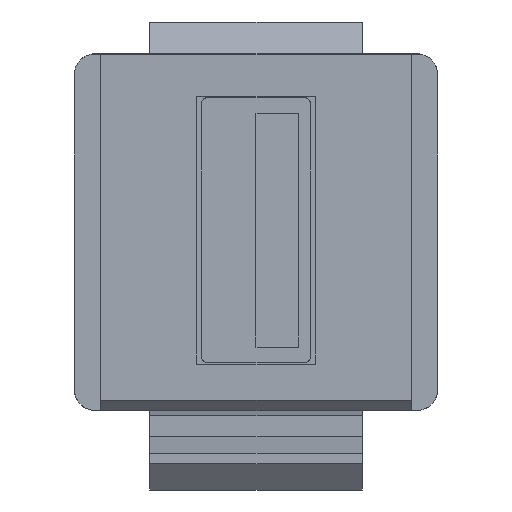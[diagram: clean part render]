
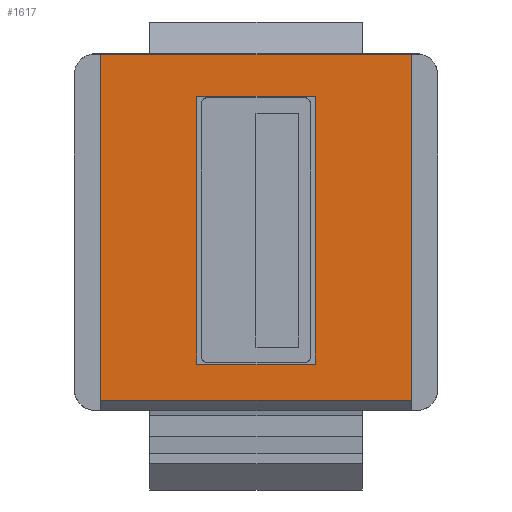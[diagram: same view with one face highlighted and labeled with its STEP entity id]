
A CAD part, left-side view. The second image highlights one B-rep face of the part: STEP entity #1617.
In plain terms, the highlighted free-form (B-spline) face has degree [1, 1] with [2, 2] control points.
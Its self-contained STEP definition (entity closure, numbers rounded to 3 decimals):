
#1437=CARTESIAN_POINT('',(0.,14.6,-16.3));
#1438=VERTEX_POINT('',#1437);
#1448=CARTESIAN_POINT('',(0.,14.6,-0.01));
#1449=VERTEX_POINT('',#1448);
#1450=CARTESIAN_POINT('',(0.,14.6,-16.3));
#1451=CARTESIAN_POINT('',(0.,14.6,-13.042));
#1452=CARTESIAN_POINT('',(0.,14.6,-9.784));
#1453=CARTESIAN_POINT('',(0.,14.6,-6.526));
#1454=CARTESIAN_POINT('',(0.,14.6,-3.268));
#1455=CARTESIAN_POINT('',(0.,14.6,-0.01));
#1456=B_SPLINE_CURVE_WITH_KNOTS('',5,(#1450,#1451,#1452,#1453,#1454,#1455),.UNSPECIFIED.,.F.,.U.,(6,6),(0.,16.29),.UNSPECIFIED.);
#1457=EDGE_CURVE('',#1438,#1449,#1456,.T.);
#1517=CARTESIAN_POINT('',(0.,0.,-16.3));
#1518=VERTEX_POINT('',#1517);
#1528=CARTESIAN_POINT('',(0.,0.,-16.3));
#1529=CARTESIAN_POINT('',(0.,2.92,-16.3));
#1530=CARTESIAN_POINT('',(0.,5.84,-16.3));
#1531=CARTESIAN_POINT('',(0.,8.76,-16.3));
#1532=CARTESIAN_POINT('',(0.,11.68,-16.3));
#1533=CARTESIAN_POINT('',(0.,14.6,-16.3));
#1534=B_SPLINE_CURVE_WITH_KNOTS('',5,(#1528,#1529,#1530,#1531,#1532,#1533),.UNSPECIFIED.,.F.,.U.,(6,6),(0.,14.6),.UNSPECIFIED.);
#1535=EDGE_CURVE('',#1518,#1438,#1534,.T.);
#1542=CARTESIAN_POINT('',(0.,0.,-16.3));
#1543=CARTESIAN_POINT('',(0.,14.6,-16.3));
#1544=CARTESIAN_POINT('',(0.,0.,-0.01));
#1545=CARTESIAN_POINT('',(0.,14.6,-0.01));
#1546=B_SPLINE_SURFACE_WITH_KNOTS('',1,1,((#1542,#1543),(#1544,#1545)),.PLANE_SURF.,.F.,.F.,.U.,(2,2),(2,2),(0.,1.116),(0.,1.),.UNSPECIFIED.);
#1547=CARTESIAN_POINT('',(0.,0.,-0.01));
#1548=VERTEX_POINT('',#1547);
#1549=CARTESIAN_POINT('',(0.,0.,-0.01));
#1550=CARTESIAN_POINT('',(0.,2.92,-0.01));
#1551=CARTESIAN_POINT('',(0.,5.84,-0.01));
#1552=CARTESIAN_POINT('',(0.,8.76,-0.01));
#1553=CARTESIAN_POINT('',(0.,11.68,-0.01));
#1554=CARTESIAN_POINT('',(0.,14.6,-0.01));
#1555=B_SPLINE_CURVE_WITH_KNOTS('',5,(#1549,#1550,#1551,#1552,#1553,#1554),.UNSPECIFIED.,.F.,.U.,(6,6),(0.,14.6),.UNSPECIFIED.);
#1556=EDGE_CURVE('',#1548,#1449,#1555,.T.);
#1557=ORIENTED_EDGE('',*,*,#1556,.T.);
#1558=ORIENTED_EDGE('',*,*,#1457,.F.);
#1559=ORIENTED_EDGE('',*,*,#1535,.F.);
#1560=CARTESIAN_POINT('',(0.,0.,-16.3));
#1561=CARTESIAN_POINT('',(0.,0.,-13.042));
#1562=CARTESIAN_POINT('',(0.,0.,-9.784));
#1563=CARTESIAN_POINT('',(0.,0.,-6.526));
#1564=CARTESIAN_POINT('',(0.,0.,-3.268));
#1565=CARTESIAN_POINT('',(0.,0.,-0.01));
#1566=B_SPLINE_CURVE_WITH_KNOTS('',5,(#1560,#1561,#1562,#1563,#1564,#1565),.UNSPECIFIED.,.F.,.U.,(6,6),(0.,16.29),.UNSPECIFIED.);
#1567=EDGE_CURVE('',#1518,#1548,#1566,.T.);
#1568=ORIENTED_EDGE('',*,*,#1567,.T.);
#1569=EDGE_LOOP('',(#1557,#1558,#1559,#1568));
#1570=FACE_OUTER_BOUND('',#1569,.T.);
#1571=CARTESIAN_POINT('',(0.,4.5,-2.));
#1572=VERTEX_POINT('',#1571);
#1573=CARTESIAN_POINT('',(0.,4.5,-14.6));
#1574=VERTEX_POINT('',#1573);
#1575=CARTESIAN_POINT('',(0.,4.5,-2.));
#1576=CARTESIAN_POINT('',(0.,4.5,-4.52));
#1577=CARTESIAN_POINT('',(0.,4.5,-7.04));
#1578=CARTESIAN_POINT('',(0.,4.5,-9.56));
#1579=CARTESIAN_POINT('',(0.,4.5,-12.08));
#1580=CARTESIAN_POINT('',(0.,4.5,-14.6));
#1581=B_SPLINE_CURVE_WITH_KNOTS('',5,(#1575,#1576,#1577,#1578,#1579,#1580),.UNSPECIFIED.,.F.,.U.,(6,6),(0.,12.6),.UNSPECIFIED.);
#1582=EDGE_CURVE('',#1572,#1574,#1581,.T.);
#1583=ORIENTED_EDGE('',*,*,#1582,.T.);
#1584=CARTESIAN_POINT('',(0.,10.1,-14.6));
#1585=VERTEX_POINT('',#1584);
#1586=CARTESIAN_POINT('',(0.,4.5,-14.6));
#1587=CARTESIAN_POINT('',(0.,5.62,-14.6));
#1588=CARTESIAN_POINT('',(0.,6.74,-14.6));
#1589=CARTESIAN_POINT('',(0.,7.86,-14.6));
#1590=CARTESIAN_POINT('',(0.,8.98,-14.6));
#1591=CARTESIAN_POINT('',(0.,10.1,-14.6));
#1592=B_SPLINE_CURVE_WITH_KNOTS('',5,(#1586,#1587,#1588,#1589,#1590,#1591),.UNSPECIFIED.,.F.,.U.,(6,6),(0.,5.6),.UNSPECIFIED.);
#1593=EDGE_CURVE('',#1574,#1585,#1592,.T.);
#1594=ORIENTED_EDGE('',*,*,#1593,.T.);
#1595=CARTESIAN_POINT('',(0.,10.1,-2.));
#1596=VERTEX_POINT('',#1595);
#1597=CARTESIAN_POINT('',(0.,10.1,-14.6));
#1598=CARTESIAN_POINT('',(0.,10.1,-12.08));
#1599=CARTESIAN_POINT('',(0.,10.1,-9.56));
#1600=CARTESIAN_POINT('',(0.,10.1,-7.04));
#1601=CARTESIAN_POINT('',(0.,10.1,-4.52));
#1602=CARTESIAN_POINT('',(0.,10.1,-2.));
#1603=B_SPLINE_CURVE_WITH_KNOTS('',5,(#1597,#1598,#1599,#1600,#1601,#1602),.UNSPECIFIED.,.F.,.U.,(6,6),(0.,12.6),.UNSPECIFIED.);
#1604=EDGE_CURVE('',#1585,#1596,#1603,.T.);
#1605=ORIENTED_EDGE('',*,*,#1604,.T.);
#1606=CARTESIAN_POINT('',(0.,10.1,-2.));
#1607=CARTESIAN_POINT('',(0.,8.98,-2.));
#1608=CARTESIAN_POINT('',(0.,7.86,-2.));
#1609=CARTESIAN_POINT('',(0.,6.74,-2.));
#1610=CARTESIAN_POINT('',(0.,5.62,-2.));
#1611=CARTESIAN_POINT('',(0.,4.5,-2.));
#1612=B_SPLINE_CURVE_WITH_KNOTS('',5,(#1606,#1607,#1608,#1609,#1610,#1611),.UNSPECIFIED.,.F.,.U.,(6,6),(0.,5.6),.UNSPECIFIED.);
#1613=EDGE_CURVE('',#1596,#1572,#1612,.T.);
#1614=ORIENTED_EDGE('',*,*,#1613,.T.);
#1615=EDGE_LOOP('',(#1583,#1594,#1605,#1614));
#1616=FACE_BOUND('',#1615,.T.);
#1617=ADVANCED_FACE('',(#1570,#1616),#1546,.T.);
